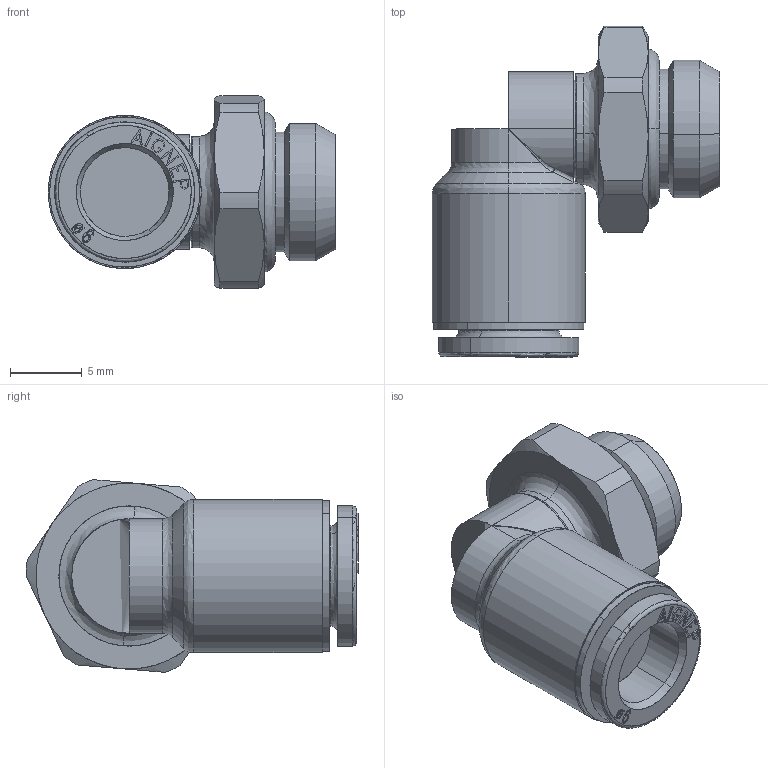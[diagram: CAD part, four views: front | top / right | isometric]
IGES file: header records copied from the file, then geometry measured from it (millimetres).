
Start section: SolidWorks IGES file using analytic representation for surfaces
Global section: file name: C:\Users\Cad02\Desktop\5611500009.IGS; native system: SolidWorks 2015; preprocessor: SolidWorks 2015; author: cad02; date: 151228.082342; units: millimetre
Bounding box: 20.1 x 23.2 x 13.47 mm (x, y, z)
Surface area: 1827.8 mm2 (no closed solid volume)
Topology: 0 solids, 0 shells, 327 faces, 3011 edges, 3008 vertices
Faces by surface type: bspline 254, revolution 73
